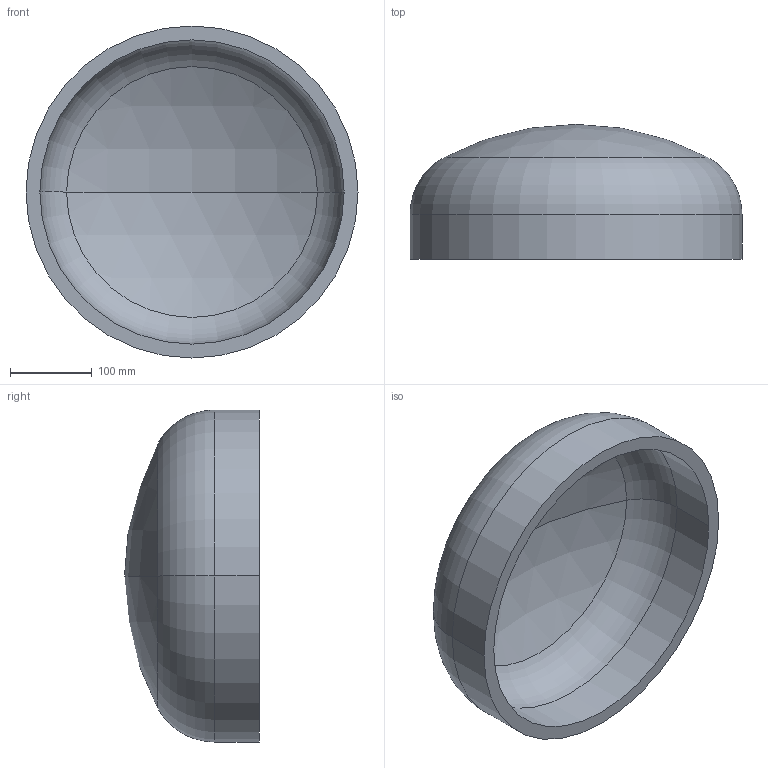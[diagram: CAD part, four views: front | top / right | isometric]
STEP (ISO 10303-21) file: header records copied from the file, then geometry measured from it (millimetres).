
FILE_DESCRIPTION (( 'STEP AP203' ), '1' );
FILE_NAME ('DIN 28013 Korbbogenform_-_Boden DIN 28013 - 406,4 x 55 - I - s=17.step', '2016-07-01T07:49:21', ( '' ), ( '' ), 'SwSTEP 2.0', 'SolidWorks 2013', '' );
FILE_SCHEMA (( 'CONFIG_CONTROL_DESIGN' ));
Length unit declared in the file: millimetre
Products named in the file (1): DIN 28013 Korbbogenform_-_Boden DIN 28013 - 406,4 x 55 - I - s=17
Bounding box: 406.4 x 165.17 x 406.4 mm (x, y, z)
Volume: 4031653.4 mm3; surface area: 495714 mm2
Topology: 1 solids, 1 shells, 13 faces, 24 edges, 14 vertices
Faces by surface type: torus 4, cylinder 4, sphere 4, plane 1
Entity records: 407 total; most frequent: DIRECTION 72, CARTESIAN_POINT 52, ORIENTED_EDGE 48, AXIS2_PLACEMENT_3D 34, EDGE_CURVE 24, CIRCLE 20, VERTEX_POINT 14, EDGE_LOOP 14
